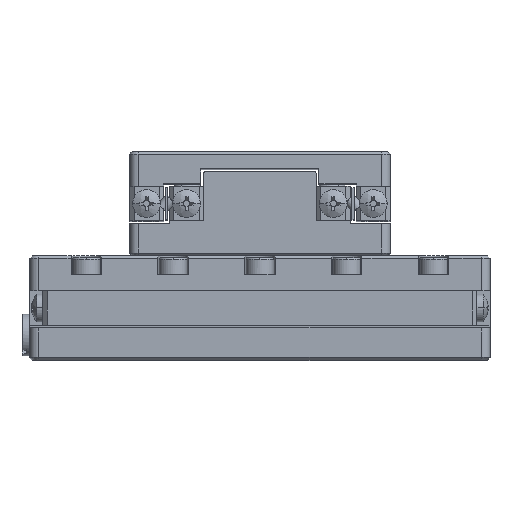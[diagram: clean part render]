
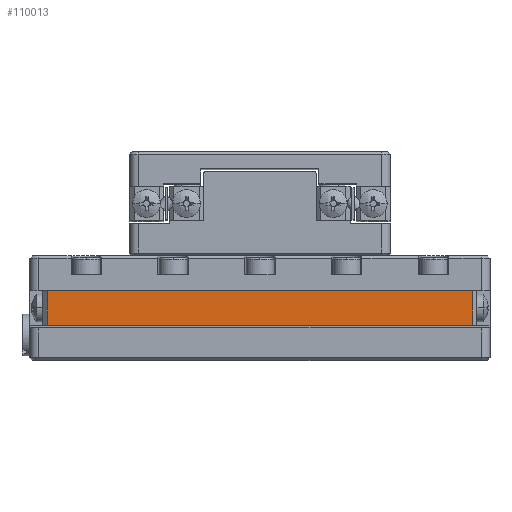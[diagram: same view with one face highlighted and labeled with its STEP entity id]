
A CAD part, top view. The second image highlights one B-rep face of the part: STEP entity #110013.
In plain terms, the highlighted planar face has unit normal (0, 0, 1).
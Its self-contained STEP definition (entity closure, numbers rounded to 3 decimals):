
#11305 = LINE ( 'NONE', #66550, #76558 ) ;
#14575 = DIRECTION ( 'NONE',  ( 0., 1., 0. ) ) ;
#16255 = EDGE_CURVE ( 'NONE', #115915, #54770, #112511, .T. ) ;
#22859 = VECTOR ( 'NONE', #60526, 1000. ) ;
#25696 = EDGE_CURVE ( 'NONE', #87122, #115915, #11305, .T. ) ;
#26215 = CARTESIAN_POINT ( 'NONE',  ( -9.007, -7.707, 14.925 ) ) ;
#26249 = EDGE_CURVE ( 'NONE', #57466, #87122, #76144, .T. ) ;
#27113 = VECTOR ( 'NONE', #119138, 1000. ) ;
#30847 = ORIENTED_EDGE ( 'NONE', *, *, #39612, .F. ) ;
#33901 = CARTESIAN_POINT ( 'NONE',  ( -8.507, -7.707, 14.925 ) ) ;
#38596 = CARTESIAN_POINT ( 'NONE',  ( -9.007, -3.707, 14.925 ) ) ;
#39362 = AXIS2_PLACEMENT_3D ( 'NONE', #109126, #99128, #46862 ) ;
#39612 = EDGE_CURVE ( 'NONE', #54770, #57466, #113549, .T. ) ;
#41030 = FACE_OUTER_BOUND ( 'NONE', #97742, .T. ) ;
#46344 = CARTESIAN_POINT ( 'NONE',  ( 40.493, -3.707, 14.925 ) ) ;
#46862 = DIRECTION ( 'NONE',  ( -1., 0., 0. ) ) ;
#54770 = VERTEX_POINT ( 'NONE', #59387 ) ;
#54904 = ORIENTED_EDGE ( 'NONE', *, *, #26249, .F. ) ;
#56850 = PLANE ( 'NONE',  #39362 ) ;
#57466 = VERTEX_POINT ( 'NONE', #100259 ) ;
#59387 = CARTESIAN_POINT ( 'NONE',  ( 40.493, -3.707, 14.925 ) ) ;
#60451 = ORIENTED_EDGE ( 'NONE', *, *, #25696, .F. ) ;
#60526 = DIRECTION ( 'NONE',  ( 1., 0., 0. ) ) ;
#66550 = CARTESIAN_POINT ( 'NONE',  ( -8.507, -3.707, 14.925 ) ) ;
#76144 = LINE ( 'NONE', #26215, #81037 ) ;
#76558 = VECTOR ( 'NONE', #14575, 1000. ) ;
#81037 = VECTOR ( 'NONE', #89122, 1000. ) ;
#87122 = VERTEX_POINT ( 'NONE', #33901 ) ;
#89122 = DIRECTION ( 'NONE',  ( -1., 0., 0. ) ) ;
#97742 = EDGE_LOOP ( 'NONE', ( #30847, #99840, #60451, #54904 ) ) ;
#99128 = DIRECTION ( 'NONE',  ( 0., 0., -1. ) ) ;
#99840 = ORIENTED_EDGE ( 'NONE', *, *, #16255, .F. ) ;
#100259 = CARTESIAN_POINT ( 'NONE',  ( 40.493, -7.707, 14.925 ) ) ;
#109126 = CARTESIAN_POINT ( 'NONE',  ( -9.007, -3.707, 14.925 ) ) ;
#110013 = ADVANCED_FACE ( 'NONE', ( #41030 ), #56850, .F. ) ;
#112511 = LINE ( 'NONE', #38596, #22859 ) ;
#113530 = CARTESIAN_POINT ( 'NONE',  ( -8.507, -3.707, 14.925 ) ) ;
#113549 = LINE ( 'NONE', #46344, #27113 ) ;
#115915 = VERTEX_POINT ( 'NONE', #113530 ) ;
#119138 = DIRECTION ( 'NONE',  ( 0., -1., 0. ) ) ;
